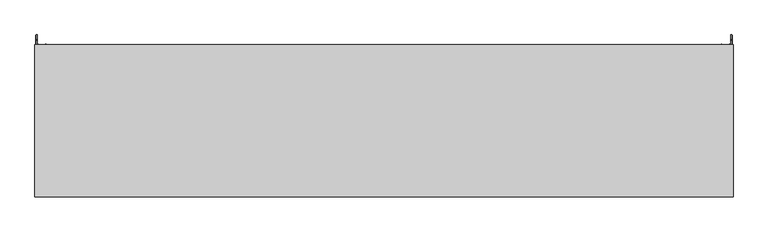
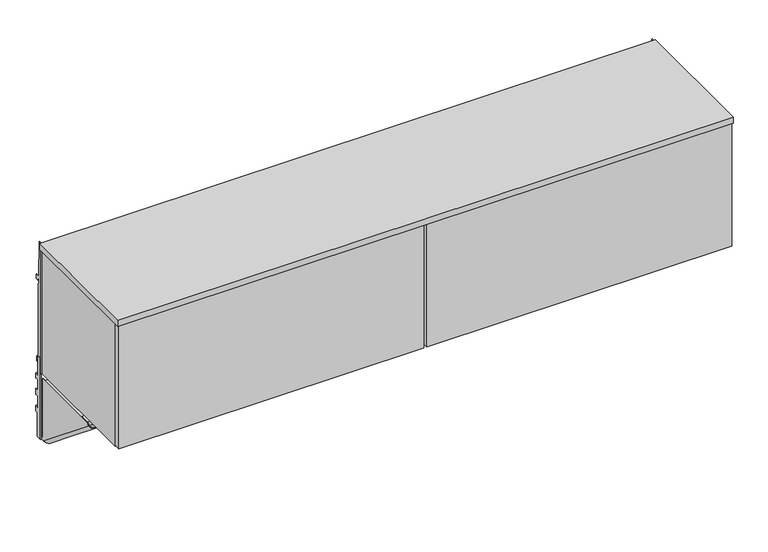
"""IFC4 building model written with IfcOpenShell, lengths in millimetres: furniture geometry, Steelcase - Universal Storage - In the Case Bin - Flat Front : For Montage - 72W."""

from ifc_helpers import new_model, si_unit, point, frame, frame_2d, origin, place, context, project, spatial, polyline, circle_curve, ellipse_curve, trimmed, segment, composite_curve, outline, extrude, faceted_brep, source, transform, mapped, element, save
from ifc_brep_helpers import plane_surface, cylinder_surface, revolved_surface, advanced_brep


def furniture_c3979f47(model_context):
    return source(origin(), model_context, "Body", "SolidModel", [
        extrude(outline(polyline([(14.7026351, 1295.4127), (14.7026351, 1236.5862384), (24.9864881, 1236.5862384), (24.9864881, 1220.7113353), (18.8396885, 1220.7113353), (18.8396885, 1227.061311), (14.7756879, 1227.061311), (14.7756879, 1186.6498969), (24.9864881, 1186.6498969), (24.9864881, 1168.3872762), (18.8396885, 1168.3872762), (18.8396885, 1174.7373246), (14.7756879, 1174.7373246), (14.7756879, 1134.3259105), (24.9864881, 1134.3259105), (24.9864881, 1116.0632897), (21.4050888, 1116.0632897), (21.4050888, 1122.4132655), (17.3410881, 1122.4132655), (17.3410881, 1040.9809), (1.1327479, 1040.9809), (1.1327479, 1295.4127), (14.7026351, 1295.4127)])), frame((2.1844, 0.0, 0.0), z_axis=(1.0, 0.0, 0.0), x_axis=(0.0, 1.0, 0.0)), (0.0, 0.0, 1.0), 1.905),
        extrude(outline(polyline([(14.7026351, 1295.4127), (14.7026351, 1236.5862384), (24.9864881, 1236.5862384), (24.9864881, 1220.7113353), (18.8396885, 1220.7113353), (18.8396885, 1227.061311), (14.7756879, 1227.061311), (14.7756879, 1186.6498969), (24.9864881, 1186.6498969), (24.9864881, 1168.3872762), (18.8396885, 1168.3872762), (18.8396885, 1174.7373246), (14.7756879, 1174.7373246), (14.7756879, 1134.3259105), (24.9864881, 1134.3259105), (24.9864881, 1116.0632897), (21.4050888, 1116.0632897), (21.4050888, 1122.4132655), (17.3410881, 1122.4132655), (17.3410881, 1040.9809), (1.1327479, 1040.9809), (1.1327479, 1295.4127), (14.7026351, 1295.4127)])), frame((1824.7106, 0.0, 0.0), z_axis=(1.0, 0.0, 0.0), x_axis=(0.0, 1.0, 0.0)), (0.0, 0.0, 1.0), 1.905),
        advanced_brep(
        [(1799.7424, -230.0833372, 1233.8431), (1799.7424, 1.1327479, 1046.6079738), (1797.6342, 1.1327479, 1046.6079738), (1797.6342, -230.0833372, 1233.8431), (1797.6342, 1.1327479, 1040.9809), (1797.6342, -7.7654502, 1040.9809), (1797.6342, -240.6555763, 1229.5716381), (1820.9006, -7.7654502, 1040.9809), (1820.9006, -240.6555763, 1229.5716381), (1820.9006, 1.1327479, 1040.9809), (1820.9006, 1.1327479, 1046.6079738), (1820.9006, -3.080512, 1050.019805), (1820.9006, -3.080512, 1233.8431), (1820.9006, -230.0833372, 1233.8431), (1818.7924009, 1.1327479, 1046.6079738), (1818.7924009, -3.080512, 1050.019805), (1818.7924009, -7.7654502, 1040.9809), (1818.7924009, -240.6555763, 1229.5716381), (1818.7924009, -230.0833372, 1233.8431), (1818.7924009, -200.311512, 1233.8431), (1818.7924009, -200.311512, 1233.0049163), (1818.7924009, -14.0787123, 1233.0049163), (1818.7924009, -14.0787123, 1233.8431), (1818.7924009, -3.080512, 1233.8431), (1818.7924009, 1.1327479, 1040.9809), (1799.7424, -7.7654502, 1040.9809), (1799.7424, -240.6555763, 1229.5716381), (1799.7424, 1.1327479, 1040.9809), (1789.8617978, -200.311512, 1233.8431), (1789.8617978, -200.311512, 1252.2581016), (1789.0236, -200.311512, 1252.2581016), (1789.0236, -200.311512, 1233.0049163), (1789.0236, -82.5825138, 1252.2581016), (1789.8617978, -82.5825138, 1252.2581016), (1789.8617978, -82.5825138, 1233.8431), (1789.0236, -82.5825138, 1233.8431), (1789.0236, -14.0787123, 1233.8431), (1789.0236, -14.0787123, 1233.0049163)],
        [
            (0, 1),
            (1, 2),
            (2, 3),
            (3, 0),
            (2, 4),
            (4, 5),
            (5, 6),
            (6, 3),
            (5, 7, ellipse_curve(frame((1809.2674, -7.7654502, 1040.9809), z_axis=(0.0, 0.0, 1.0), x_axis=(0.0, -1.0, 0.0)), 18.4853359, 11.6332)),
            (7, 8),
            (8, 6, ellipse_curve(frame((1809.2674, -240.6555763, 1229.5716381), z_axis=(0.0, 0.374606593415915, -0.9271838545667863), x_axis=(0.0, -0.9271838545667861, -0.3746065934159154)), 13.3008659, 11.6332)),
            (7, 9),
            (9, 10),
            (10, 11),
            (11, 12),
            (12, 13),
            (13, 8),
            (10, 14),
            (14, 15),
            (15, 11),
            (16, 17),
            (17, 18),
            (18, 19),
            (19, 20),
            (20, 21),
            (21, 22),
            (22, 23),
            (23, 15),
            (14, 24),
            (24, 16),
            (16, 25, ellipse_curve(frame((1809.2674005, -7.7654502, 1040.9809), z_axis=(0.0, 0.0, -1.0), x_axis=(0.0, 1.0, 0.0)), 15.135374, 9.5250005)),
            (25, 26),
            (26, 17, ellipse_curve(frame((1809.2674005, -240.6555763, 1229.5716381), z_axis=(0.0, -0.374606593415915, 0.9271838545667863), x_axis=(0.0, 0.9271838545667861, 0.3746065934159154)), 10.8904475, 9.5250005)),
            (0, 26),
            (25, 27),
            (27, 1),
            (13, 18),
            (24, 9),
            (4, 27),
            (28, 29),
            (29, 30),
            (30, 31),
            (31, 20),
            (19, 28),
            (32, 33),
            (33, 34),
            (34, 35),
            (35, 32),
            (35, 36),
            (36, 37),
            (37, 31),
            (30, 32),
            (28, 34),
            (33, 29),
            (36, 22),
            (21, 37),
            (12, 23),
        ],
        [
            plane_surface(frame((1799.7424, -241.2702093, 1242.902052), z_axis=(0.0, 0.6293204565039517, 0.7771459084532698), x_axis=(0.0, 0.7771459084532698, -0.6293204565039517))),
            plane_surface(frame((1797.6342, -241.2702093, 1242.902052), z_axis=(-1.0000000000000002, 0.0, 0.0), x_axis=(0.0, 0.7771459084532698, -0.6293204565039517))),
            cylinder_surface(frame((1809.2674, 5.728998, 1030.0533094), z_axis=(0.0, -0.7771459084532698, 0.6293204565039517), x_axis=(0.0, 0.6293204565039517, 0.7771459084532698)), 11.6332),
            plane_surface(frame((1820.9006, -247.5463438, 1235.1516726), z_axis=(1.0, 0.0, 0.0), x_axis=(0.0, 0.77714590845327, -0.6293204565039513))),
            plane_surface(frame((1820.9006, -241.2702093, 1242.902052), z_axis=(0.0, 0.6293204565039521, 0.7771459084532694), x_axis=(0.0, 0.7771459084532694, -0.6293204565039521))),
            plane_surface(frame((1818.7924009, -241.2702093, 1242.902052), z_axis=(-1.0, 0.0, 0.0), x_axis=(0.0, 0.7771459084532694, -0.6293204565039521))),
            revolved_surface(polyline([(1809.2674005, 7.3699238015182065, 1040.980900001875), (1809.2674005, -238.76446812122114, 1240.2966349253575)]), (1809.2674005, 5.728998, 1030.0533094), (0.0, 0.7771459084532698, -0.6293204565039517)),
            plane_surface(frame((1799.7424, -247.5463438, 1235.1516726), z_axis=(1.0, 0.0, 0.0), x_axis=(0.0, 0.77714590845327, -0.6293204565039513))),
            plane_surface(frame((1828.8, -257.2236519, 1222.8777011), z_axis=(0.0, -0.374606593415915, 0.9271838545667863), x_axis=(-1.0, 0.0, 0.0))),
            plane_surface(frame((1828.8, 1.1327479, 1040.9809), z_axis=(0.0, 0.0, -1.0), x_axis=(-1.0, 0.0, 0.0))),
            plane_surface(frame((1828.8, 1.1327479, 1053.6809), z_axis=(0.0, 1.0, 0.0), x_axis=(-1.0, 0.0, 0.0))),
            plane_surface(frame((1789.0236, -200.311512, 1252.2581016), z_axis=(0.0, -1.0, 0.0), x_axis=(0.0, 0.0, -1.0))),
            plane_surface(frame((1789.0236, -82.5825138, 1252.2581016), z_axis=(0.0, 1.0, 0.0), x_axis=(0.0, 0.0, 1.0))),
            plane_surface(frame((1789.0236, -200.311512, 1252.2581016), z_axis=(-1.0, 0.0, 0.0), x_axis=(0.0, 1.0, 0.0))),
            plane_surface(frame((1789.8617978, -200.311512, 1233.8431), z_axis=(1.0, 0.0, 0.0), x_axis=(0.0, 1.0, 0.0))),
            plane_surface(frame((1789.8617978, -200.311512, 1252.2581016), z_axis=(0.0, 0.0, 1.0), x_axis=(0.0, 1.0, 0.0))),
            plane_surface(frame((1789.0236, -14.0787123, 1233.8431), z_axis=(0.0, 1.0, 0.0), x_axis=(0.0, 0.0, 1.0))),
            plane_surface(frame((1789.0236, -200.311512, 1233.0049163), z_axis=(0.0, 0.0, -1.0), x_axis=(0.0, 1.0, 0.0))),
            plane_surface(frame((1820.9006, -200.311512, 1233.8431), z_axis=(0.0, 0.0, 1.0), x_axis=(0.0, 1.0, 0.0))),
            plane_surface(frame((1820.9006, -3.080512, 1050.019805), z_axis=(0.0, 1.0, 0.0), x_axis=(-1.0, 0.0, 0.0))),
        ],
        [
            (0, [[1, 2, 3, 4]]),
            (1, [[-3, 5, 6, 7, 8]]),
            (2, [[-7, 9, 10, 11]]),
            (3, [[-10, 12, 13, 14, 15, 16, 17]]),
            (4, [[18, 19, 20, -14]]),
            (5, [[21, 22, 23, 24, 25, 26, 27, 28, -19, 29, 30]]),
            (6, [[-21, 31, 32, 33]]),
            (7, [[-1, 34, -32, 35, 36]]),
            (8, [[-4, -8, -11, -17, 37, -22, -33, -34]]),
            (9, [[38, -12, -9, -6, 39, -35, -31, -30]]),
            (10, [[-38, -29, -18, -13]]),
            (10, [[-39, -5, -2, -36]]),
            (11, [[40, 41, 42, 43, -24, 44]]),
            (12, [[45, 46, 47, 48]]),
            (13, [[-48, 49, 50, 51, -42, 52]]),
            (14, [[-40, 53, -46, 54]]),
            (15, [[-41, -54, -45, -52]]),
            (16, [[-50, 55, -26, 56]]),
            (17, [[-51, -56, -25, -43]]),
            (18, [[57, -27, -55, -49, -47, -53, -44, -23, -37, -16]]),
            (19, [[-15, -20, -28, -57]]),
        ],
    ),
        advanced_brep(
        [(8.1026, -3.080512, 1050.019805), (8.1026, -3.080512, 1233.8431), (8.1026, -14.0787123, 1233.8431), (8.1026, -14.0787123, 1233.0049163), (8.1026, -200.311512, 1233.0049163), (8.1026, -200.311512, 1233.8431), (8.1026, -230.0833372, 1233.8431), (8.1026, -240.6555763, 1229.5716381), (8.1026, -7.7654502, 1040.9809), (8.1026, 1.1327479, 1040.9809), (8.1026, 1.1327479, 1046.6079738), (5.9944, -3.080512, 1233.8431), (5.9944, -3.080512, 1050.019805), (5.9944, 1.1327479, 1046.6079738), (5.9944, 1.1327479, 1040.9809), (5.9944, -7.7654502, 1040.9809), (5.9944, -240.6555763, 1229.5716381), (5.9944, -230.0833372, 1233.8431), (39.5732022, -200.311512, 1233.8431), (39.5732022, -82.5825138, 1233.8431), (40.4114, -82.5825138, 1233.8431), (40.4114, -14.0787123, 1233.8431), (29.2608, -7.7654502, 1040.9809), (29.2608, -240.6555763, 1229.5716381), (29.2608, 1.1327479, 1040.9809), (29.2608, 1.1327479, 1046.6079738), (29.2608, -230.0833372, 1233.8431), (27.1526009, 1.1327479, 1046.6079738), (27.1526009, -230.0833372, 1233.8431), (27.1526009, 1.1327479, 1040.9809), (27.1526009, -7.7654502, 1040.9809), (27.1526009, -240.6555763, 1229.5716381), (40.4114, -200.311512, 1233.0049163), (40.4114, -200.311512, 1252.2581016), (39.5732022, -200.311512, 1252.2581016), (40.4114, -14.0787123, 1233.0049163), (40.4114, -82.5825138, 1252.2581016), (39.5732022, -82.5825138, 1252.2581016)],
        [
            (0, 1),
            (1, 2),
            (2, 3),
            (3, 4),
            (4, 5),
            (5, 6),
            (6, 7),
            (7, 8),
            (8, 9),
            (9, 10),
            (10, 0),
            (11, 12),
            (12, 13),
            (13, 14),
            (14, 15),
            (15, 16),
            (16, 17),
            (17, 11),
            (17, 6),
            (5, 18),
            (18, 19),
            (19, 20),
            (20, 21),
            (21, 2),
            (1, 11),
            (0, 12),
            (10, 13),
            (15, 22, ellipse_curve(frame((17.6276, -7.7654502, 1040.9809), z_axis=(0.0, 0.0, 1.0), x_axis=(0.0, -1.0, 0.0)), 18.4853359, 11.6332)),
            (22, 23),
            (23, 16, ellipse_curve(frame((17.6276, -240.6555763, 1229.5716381), z_axis=(0.0, 0.374606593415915, -0.9271838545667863), x_axis=(0.0, -0.9271838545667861, -0.3746065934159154)), 13.3008659, 11.6332)),
            (22, 24),
            (24, 25),
            (25, 26),
            (26, 23),
            (25, 27),
            (27, 28),
            (28, 26),
            (27, 29),
            (29, 30),
            (30, 31),
            (31, 28),
            (7, 31, ellipse_curve(frame((17.6276005, -240.6555763, 1229.5716381), z_axis=(0.0, -0.374606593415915, 0.9271838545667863), x_axis=(0.0, 0.9271838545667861, 0.3746065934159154)), 10.8904475, 9.5250005)),
            (30, 8, ellipse_curve(frame((17.6276005, -7.7654502, 1040.9809), z_axis=(0.0, 0.0, -1.0), x_axis=(0.0, 1.0, 0.0)), 15.135374, 9.5250005)),
            (14, 9),
            (29, 24),
            (4, 32),
            (32, 33),
            (33, 34),
            (34, 18),
            (21, 35),
            (35, 3),
            (35, 32),
            (20, 36),
            (36, 33),
            (19, 37),
            (37, 36),
            (37, 34),
        ],
        [
            plane_surface(frame((8.1026, -230.0833372, 1233.8431), z_axis=(1.0, 0.0, 0.0), x_axis=(0.0, -1.0, 0.0))),
            plane_surface(frame((5.9944, -230.0833372, 1233.8431), z_axis=(-1.0, 0.0, 0.0), x_axis=(0.0, 1.0, 0.0))),
            plane_surface(frame((8.1026, -3.080512, 1233.8431), z_axis=(0.0, 0.0, 1.0), x_axis=(-1.0, 0.0, 0.0))),
            plane_surface(frame((8.1026, -3.080512, 1050.019805), z_axis=(0.0, 1.0, 0.0), x_axis=(-1.0, 0.0, 0.0))),
            plane_surface(frame((8.1026, -241.2702093, 1242.902052), z_axis=(0.0, 0.6293204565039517, 0.7771459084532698), x_axis=(0.0, 0.7771459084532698, -0.6293204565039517))),
            cylinder_surface(frame((17.6276, 5.728998, 1030.0533094), z_axis=(0.0, -0.7771459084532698, 0.6293204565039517), x_axis=(1.0, 0.0, 0.0)), 11.6332),
            plane_surface(frame((29.2608, -247.5463438, 1235.1516726), z_axis=(1.0000000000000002, 0.0, 0.0), x_axis=(0.0, 0.7771459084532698, -0.6293204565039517))),
            plane_surface(frame((29.2608, -241.2702093, 1242.902052), z_axis=(0.0, 0.6293204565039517, 0.7771459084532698), x_axis=(0.0, 0.7771459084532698, -0.6293204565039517))),
            plane_surface(frame((27.1526009, -241.2702093, 1242.902052), z_axis=(-1.0000000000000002, 0.0, 0.0), x_axis=(0.0, 0.7771459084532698, -0.6293204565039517))),
            revolved_surface(polyline([(27.152601, 1.375646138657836, 1033.5785848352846), (27.152601, -244.75874578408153, 1232.8943197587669)]), (17.6276005, 5.728998, 1030.0533094), (0.0, 0.7771459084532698, -0.6293204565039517)),
            plane_surface(frame((1828.8, -257.2236519, 1222.8777011), z_axis=(0.0, -0.374606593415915, 0.9271838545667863), x_axis=(-1.0, 0.0, 0.0))),
            plane_surface(frame((1828.8, 1.1327479, 1040.9809), z_axis=(0.0, 0.0, -1.0), x_axis=(-1.0, 0.0, 0.0))),
            plane_surface(frame((1828.8, 1.1327479, 1053.6809), z_axis=(0.0, 1.0, 0.0), x_axis=(-1.0, 0.0, 0.0))),
            plane_surface(frame((10.5986151, -200.311512, 1233.8431), z_axis=(0.0, -1.0, 0.0), x_axis=(-1.0, 0.0, 0.0))),
            plane_surface(frame((10.5986151, -14.0787123, 1233.8431), z_axis=(0.0, 1.0, 0.0), x_axis=(1.0, 0.0, 0.0))),
            plane_surface(frame((8.1026, -200.311512, 1233.0049163), z_axis=(0.0, 0.0, -1.0), x_axis=(0.0, 1.0, 0.0))),
            plane_surface(frame((40.4114, -200.311512, 1233.0049163), z_axis=(1.0, 0.0, 0.0), x_axis=(0.0, 1.0, 0.0))),
            plane_surface(frame((38.1509305, -82.5825138, 1252.2581016), z_axis=(0.0, 1.0, 0.0), x_axis=(1.0, 0.0, 0.0))),
            plane_surface(frame((40.4114, -200.311512, 1252.2581016), z_axis=(0.0, 0.0, 1.0), x_axis=(0.0, 1.0, 0.0))),
            plane_surface(frame((39.5732022, -200.311512, 1252.2581016), z_axis=(-1.0, 0.0, 0.0), x_axis=(0.0, 1.0, 0.0))),
        ],
        [
            (0, [[1, 2, 3, 4, 5, 6, 7, 8, 9, 10, 11]]),
            (1, [[12, 13, 14, 15, 16, 17, 18]]),
            (2, [[-18, 19, -6, 20, 21, 22, 23, 24, -2, 25]]),
            (3, [[-1, 26, -12, -25]]),
            (4, [[-26, -11, 27, -13]]),
            (5, [[-16, 28, 29, 30]]),
            (6, [[-29, 31, 32, 33, 34]]),
            (7, [[-33, 35, 36, 37]]),
            (8, [[-36, 38, 39, 40, 41]]),
            (9, [[-8, 42, -40, 43]]),
            (10, [[-7, -19, -17, -30, -34, -37, -41, -42]]),
            (11, [[44, -9, -43, -39, 45, -31, -28, -15]]),
            (12, [[-44, -14, -27, -10]]),
            (12, [[-45, -38, -35, -32]]),
            (13, [[46, 47, 48, 49, -20, -5]]),
            (14, [[50, 51, -3, -24]]),
            (15, [[-46, -4, -51, 52]]),
            (16, [[-47, -52, -50, -23, 53, 54]]),
            (17, [[-53, -22, 55, 56]]),
            (18, [[-48, -54, -56, 57]]),
            (19, [[-49, -57, -55, -21]]),
        ],
    ),
        faceted_brep([(1809.8516023, -9.7789998, 1640.3955), (1809.8516023, -9.7789998, 1652.2572326), (1809.8516023, -10.6172003, 1652.2572326), (1809.8516023, -10.6172003, 1639.557281), (1809.8516023, -0.8382, 1639.557281), (1809.8516023, -0.8382266, 1640.3955), (17.0434001, -9.7789998, 1640.3955), (17.0434001, -0.8382, 1640.3955), (17.0434001, -0.8382011, 1639.557281), (17.0434001, -10.6172003, 1639.557281), (17.0434001, -10.6172003, 1652.2572326), (17.0434001, -9.7789998, 1652.2572326), (1812.4837557, -30.9238769, 1640.3955), (1813.3187599, -30.850824, 1640.3955), (1810.6930117, -0.8382, 1640.3955), (1824.7106, -0.8382, 1640.3955), (1824.7106, 0.1784978, 1640.3955), (2.1844, 0.1784978, 1640.3955), (2.1844, -0.8382, 1640.3955), (16.2019988, -0.8382, 1640.3955), (13.5762335, -30.850824, 1640.3955), (14.4176356, -30.850824, 1640.3955), (1824.7106, 0.1784978, 1247.9655), (1824.7106, -0.8382, 1247.9655), (1810.6930117, -0.8382, 1247.9655), (1813.3187599, -30.850824, 1247.9655), (1812.4837557, -30.9238769, 1247.9655), (1809.8516, -0.8382, 1247.9655), (17.0434002, -0.8382, 1247.9655), (14.4176356, -30.850824, 1247.9655), (13.5762335, -30.850824, 1247.9655), (16.2019988, -0.8382, 1247.9655), (2.1844, -0.8382, 1247.9655), (2.1844, 0.1784978, 1247.9655)], [[[0, 1, 2, 3, 4, 5]], [[6, 7, 8, 9, 10, 11]], [[1, 0, 6, 11]], [[2, 1, 11, 10]], [[3, 2, 10, 9]], [[4, 3, 9, 8]], [[0, 5, 12, 13, 14, 15, 16, 17, 18, 19, 20, 21, 7, 6]], [[22, 23, 24, 25, 26, 27, 28, 29, 30, 31, 32, 33]], [[17, 16, 22, 33]], [[18, 17, 33, 32]], [[19, 18, 32, 31]], [[20, 19, 31, 30]], [[21, 20, 30, 29]], [[7, 21, 29, 28, 8]], [[28, 27, 4, 8]], [[12, 5, 4, 27, 26]], [[13, 12, 26, 25]], [[14, 13, 25, 24]], [[15, 14, 24, 23]], [[16, 15, 23, 22]]]),
        faceted_brep([(1793.3415999, -61.4680004, 1256.4236903), (1793.3415999, -61.4680004, 1248.8037), (1793.3415999, -60.6298021, 1248.8037), (1793.3415999, -60.6298021, 1256.4236903), (33.5534002, -61.4680004, 1256.4236903), (33.5534002, -60.6298021, 1256.4236903), (33.5534002, -60.6298021, 1248.8037), (33.5534002, -61.468, 1248.8037), (17.0434001, -61.4680004, 1248.8037), (17.0434001, -61.4680004, 1247.9655), (1809.8516023, -61.4680004, 1247.9655), (1809.8516023, -61.4680004, 1248.8037), (1809.8516023, -0.8382, 1247.9655), (1809.8516023, -0.8382, 1248.8037), (17.0434001, -0.8382, 1248.8037), (17.0434001, -0.8382, 1247.9655)], [[[0, 1, 2, 3]], [[4, 5, 6, 7]], [[1, 0, 4, 7, 8, 9, 10, 11]], [[3, 2, 6, 5]], [[0, 3, 5, 4]], [[11, 10, 12, 13]], [[8, 14, 15, 9]], [[12, 10, 9, 15]], [[13, 12, 15, 14]], [[11, 13, 14, 8, 7, 6, 2, 1]]]),
        extrude(outline(composite_curve([segment(polyline([(-343.4401318, 1291.8437595), (-377.213238, 1291.8437595), (-377.213238, 1639.09375), (-30.850824, 1639.09375), (-30.850824, 1638.0577444), (-372.9486617, 1638.0577444)]), True, "CONTINUOUS"), segment(trimmed(circle_curve(frame_2d((-372.9486617, 1635.1839261)), 2.8738183), [point((-372.9486617, 1638.0577444))], [point((-375.82248, 1635.1839261))], True, "CARTESIAN"), True, "CONTINUOUS"), segment(polyline([(-375.82248, 1635.1839261), (-375.82248, 1292.9867129), (-343.4401318, 1292.9867129), (-343.4401318, 1291.8437595)]), True, "CONTINUOUS")], self_intersect=False)), frame((906.1266311, 0.0, 0.0), z_axis=(1.0, 0.0, 0.0), x_axis=(0.0, 1.0, 0.0)), (0.0, 0.0, 1.0), 16.5467378),
        extrude(outline(polyline([(1828.8, -399.4977324), (0.0, -399.4977324), (0.0, 0.0), (1828.8, 0.0), (1828.8, -399.4977324)])), frame((0.0, 0.0, 1639.490625), z_axis=(0.0, 0.0, 1.0), x_axis=(1.0, 0.0, 0.0)), (0.0, 0.0, 1.0), 19.05),
        extrude(outline(polyline([(4.4448587, -378.8585852), (909.828, -378.8585852), (909.828, -399.0261526), (4.4448587, -399.0261526), (4.4448587, -378.8585852)])), frame((0.0, 0.0, 1253.2134107), z_axis=(0.0, 0.0, 1.0), x_axis=(1.0, 0.0, 0.0)), (0.0, 0.0, 1.0), 386.3690475),
        extrude(outline(polyline([(918.972, -378.8585852), (1824.3703, -378.8585852), (1824.3703, -399.0261526), (918.972, -399.0261526), (918.972, -378.8585852)])), frame((0.0, 0.0, 1253.2134107), z_axis=(0.0, 0.0, 1.0), x_axis=(1.0, 0.0, 0.0)), (0.0, 0.0, 1.0), 386.3690475),
        extrude(outline(polyline([(0.0, 1657.096), (10.1677703, 1657.096), (13.3857995, 1545.8185744), (26.0095997, 1545.8185744), (26.0095997, 1532.1025512), (17.5768, 1532.1025512), (17.5768, 1537.1064608), (13.3349998, 1537.1064608), (13.3349998, 1522.6538546), (14.2747998, 1522.6538546), (14.2747998, 1296.0858527), (17.2466001, 1296.0858527), (17.2466001, 1289.7358043), (22.5806007, 1289.7358043), (22.5806007, 1274.2164027), (0.0, 1274.2164027), (0.0, 1657.096)])), frame((1823.2882, 0.0, 0.0), z_axis=(1.0, 0.0, 0.0), x_axis=(0.0, 1.0, 0.0)), (0.0, 0.0, 1.0), 1.905),
        extrude(outline(polyline([(15.875, -377.213238), (5.5118, -377.213238), (5.5118, 0.0), (15.875, 0.0), (15.875, -377.213238)])), frame((0.0, 0.0, 1247.9655), z_axis=(0.0, 0.0, 1.0), x_axis=(1.0, 0.0, 0.0)), (0.0, 0.0, 1.0), 391.2710707),
        extrude(outline(polyline([(1827.6568665, -377.213238), (1812.925, -377.213238), (1812.925, 0.0), (1827.6568665, 0.0), (1827.6568665, -377.213238)])), frame((0.0, 0.0, 1247.9655), z_axis=(0.0, 0.0, 1.0), x_axis=(1.0, 0.0, 0.0)), (0.0, 0.0, 1.0), 391.2710707),
        extrude(outline(polyline([(0.0, 1657.096), (10.1677703, 1657.096), (13.3857995, 1545.8185744), (26.0095997, 1545.8185744), (26.0095997, 1532.1025512), (17.5768, 1532.1025512), (17.5768, 1537.1064608), (13.3349998, 1537.1064608), (13.3349998, 1522.6538546), (14.2747998, 1522.6538546), (14.2747998, 1296.0858527), (17.2466001, 1296.0858527), (17.2466001, 1289.7358043), (22.5806007, 1289.7358043), (22.5806007, 1274.2164027), (0.0, 1274.2164027), (0.0, 1657.096)])), frame((3.6068, 0.0, 0.0), z_axis=(1.0, 0.0, 0.0), x_axis=(0.0, 1.0, 0.0)), (0.0, 0.0, 1.0), 1.905),
        extrude(outline(polyline([(-35.4584098, 1372.819257), (-27.0763996, 1372.819257), (-27.0763996, 1360.1191601), (-33.4264117, 1360.1191601), (-33.4264117, 1323.1622589), (-27.0763996, 1323.1622589), (-27.0763996, 1265.428), (-35.4584098, 1265.428), (-35.4584098, 1293.054213), (-46.1263996, 1293.054213), (-46.1263996, 1268.1875622), (-59.9694137, 1268.1875622), (-59.9694137, 1294.8575912), (-332.8542818, 1294.8575912), (-332.8542818, 1268.1875622), (-377.3042823, 1268.1875622), (-377.3042823, 1310.7072052), (-35.4584098, 1310.7072052), (-35.4584098, 1372.819257)])), frame((15.875, 0.0, 0.0), z_axis=(1.0, 0.0, 0.0), x_axis=(0.0, 1.0, 0.0)), (0.0, 0.0, 1.0), 1797.05),
    ])


if __name__ == "__main__":
    model = new_model("IFC4")
    model_context = context("Model", 3, world=origin())
    ifc_project = project(units=[si_unit("LENGTHUNIT", "METRE", prefix="MILLI")], contexts=[model_context])
    site = spatial("IfcSite", under=ifc_project)
    building = spatial("IfcBuilding", under=site)
    placement = place(None, origin())
    furniture_shape = furniture_c3979f47(model_context)
    element("IfcFurniture", 1, ObjectType="Steelcase - Universal Storage - In the Case Bin - Flat Front : For Montage - 72W", at=placement, inside=building, context=model_context, shape_type="MappedRepresentation", body=[
        mapped(furniture_shape, transform((0.0, 0.0, 0.0), x_axis=(1.0, 0.0, 0.0), y_axis=(0.0, 1.0, 0.0), z_axis=(0.0, 0.0, 1.0))),
    ])
    save(model, "model.ifc")
